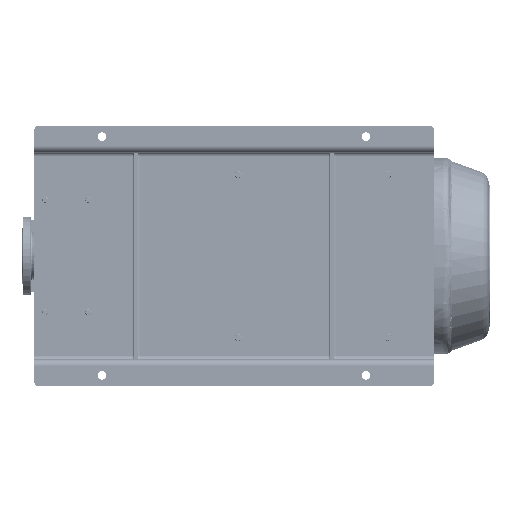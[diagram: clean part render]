
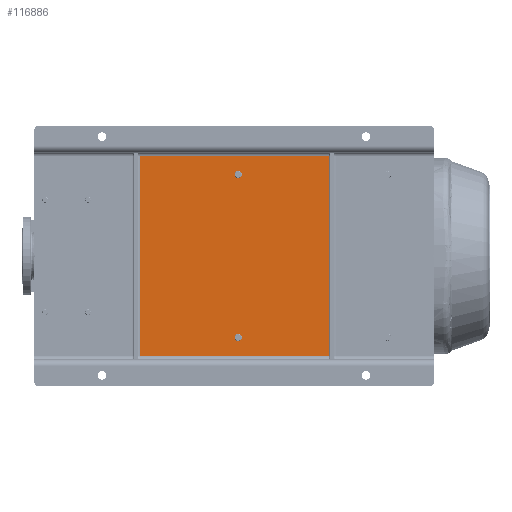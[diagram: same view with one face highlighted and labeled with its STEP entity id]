
A CAD part, front view. The second image highlights one B-rep face of the part: STEP entity #116886.
In plain terms, the highlighted planar face has unit normal (0, -1, 0).
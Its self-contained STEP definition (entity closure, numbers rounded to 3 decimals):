
#2037 = ORIENTED_EDGE ( 'NONE', *, *, #27242, .T. ) ;
#3615 = CARTESIAN_POINT ( 'NONE',  ( 75., 90., -825. ) ) ;
#7624 = CARTESIAN_POINT ( 'NONE',  ( 645., 90., -825. ) ) ;
#9615 = EDGE_CURVE ( 'NONE', #13880, #97309, #29800, .T. ) ;
#10015 = ORIENTED_EDGE ( 'NONE', *, *, #143969, .T. ) ;
#12257 = VERTEX_POINT ( 'NONE', #155364 ) ;
#12953 = CARTESIAN_POINT ( 'NONE',  ( 75., 90., -295. ) ) ;
#13880 = VERTEX_POINT ( 'NONE', #32224 ) ;
#22217 = CARTESIAN_POINT ( 'NONE',  ( 593.5, 90., -571.5 ) ) ;
#22355 = LINE ( 'NONE', #97170, #43340 ) ;
#27242 = EDGE_CURVE ( 'NONE', #122941, #12257, #22355, .T. ) ;
#28048 = CARTESIAN_POINT ( 'NONE',  ( 136.5, 90., -571.5 ) ) ;
#29800 = CIRCLE ( 'NONE', #91479, 10. ) ;
#31121 = DIRECTION ( 'NONE',  ( 0., 1., 0. ) ) ;
#32224 = CARTESIAN_POINT ( 'NONE',  ( 136.5, 90., -581.5 ) ) ;
#33650 = AXIS2_PLACEMENT_3D ( 'NONE', #63129, #135675, #61570 ) ;
#35898 = LINE ( 'NONE', #93867, #43806 ) ;
#38228 = PLANE ( 'NONE',  #52613 ) ;
#39036 = CARTESIAN_POINT ( 'NONE',  ( 75., 90., -1120. ) ) ;
#39297 = CARTESIAN_POINT ( 'NONE',  ( 85., 90., -825. ) ) ;
#43340 = VECTOR ( 'NONE', #143134, 1000. ) ;
#43806 = VECTOR ( 'NONE', #144602, 1000. ) ;
#46887 = EDGE_CURVE ( 'NONE', #12257, #77145, #73288, .T. ) ;
#47542 = DIRECTION ( 'NONE',  ( -1., 0., 0. ) ) ;
#48772 = CARTESIAN_POINT ( 'NONE',  ( 85., 90., -295. ) ) ;
#50544 = CIRCLE ( 'NONE', #117478, 10. ) ;
#51068 = FACE_OUTER_BOUND ( 'NONE', #61330, .T. ) ;
#52613 = AXIS2_PLACEMENT_3D ( 'NONE', #39036, #61579, #87321 ) ;
#56549 = CARTESIAN_POINT ( 'NONE',  ( 593.5, 90., -571.5 ) ) ;
#60520 = ORIENTED_EDGE ( 'NONE', *, *, #61336, .T. ) ;
#61330 = EDGE_LOOP ( 'NONE', ( #60520, #158548, #2037, #130493 ) ) ;
#61336 = EDGE_CURVE ( 'NONE', #77145, #62900, #35898, .T. ) ;
#61570 = DIRECTION ( 'NONE',  ( 0., 0., -1. ) ) ;
#61579 = DIRECTION ( 'NONE',  ( 0., -1., 0. ) ) ;
#62827 = CARTESIAN_POINT ( 'NONE',  ( 593.5, 90., -581.5 ) ) ;
#62900 = VERTEX_POINT ( 'NONE', #39297 ) ;
#63129 = CARTESIAN_POINT ( 'NONE',  ( 136.5, 90., -571.5 ) ) ;
#64227 = DIRECTION ( 'NONE',  ( 0., 1., 0. ) ) ;
#66062 = EDGE_CURVE ( 'NONE', #97309, #13880, #79937, .T. ) ;
#68816 = VECTOR ( 'NONE', #74439, 1000. ) ;
#69674 = DIRECTION ( 'NONE',  ( 0., 0., 1. ) ) ;
#73288 = LINE ( 'NONE', #12953, #134960 ) ;
#74439 = DIRECTION ( 'NONE',  ( 1., 0., 0. ) ) ;
#75521 = DIRECTION ( 'NONE',  ( 0., 0., -1. ) ) ;
#76801 = ORIENTED_EDGE ( 'NONE', *, *, #135096, .T. ) ;
#76811 = LINE ( 'NONE', #3615, #68816 ) ;
#77145 = VERTEX_POINT ( 'NONE', #48772 ) ;
#79937 = CIRCLE ( 'NONE', #33650, 10. ) ;
#83879 = AXIS2_PLACEMENT_3D ( 'NONE', #22217, #31121, #69674 ) ;
#87321 = DIRECTION ( 'NONE',  ( 0., 0., -1. ) ) ;
#91479 = AXIS2_PLACEMENT_3D ( 'NONE', #28048, #64227, #75521 ) ;
#93867 = CARTESIAN_POINT ( 'NONE',  ( 85., 90., -830. ) ) ;
#95179 = DIRECTION ( 'NONE',  ( 0., 1., 0. ) ) ;
#97170 = CARTESIAN_POINT ( 'NONE',  ( 645., 90., -290. ) ) ;
#97309 = VERTEX_POINT ( 'NONE', #132014 ) ;
#105487 = EDGE_LOOP ( 'NONE', ( #134869, #147359 ) ) ;
#106726 = FACE_BOUND ( 'NONE', #115950, .T. ) ;
#109707 = EDGE_CURVE ( 'NONE', #62900, #122941, #76811, .T. ) ;
#115950 = EDGE_LOOP ( 'NONE', ( #76801, #10015 ) ) ;
#116886 = ADVANCED_FACE ( 'NONE', ( #106726, #134126, #51068 ), #38228, .T. ) ;
#117478 = AXIS2_PLACEMENT_3D ( 'NONE', #56549, #95179, #131470 ) ;
#122941 = VERTEX_POINT ( 'NONE', #7624 ) ;
#125706 = VERTEX_POINT ( 'NONE', #130454 ) ;
#130454 = CARTESIAN_POINT ( 'NONE',  ( 593.5, 90., -561.5 ) ) ;
#130493 = ORIENTED_EDGE ( 'NONE', *, *, #46887, .T. ) ;
#131470 = DIRECTION ( 'NONE',  ( 0., 0., 1. ) ) ;
#132014 = CARTESIAN_POINT ( 'NONE',  ( 136.5, 90., -561.5 ) ) ;
#134083 = VERTEX_POINT ( 'NONE', #62827 ) ;
#134126 = FACE_BOUND ( 'NONE', #105487, .T. ) ;
#134869 = ORIENTED_EDGE ( 'NONE', *, *, #66062, .T. ) ;
#134960 = VECTOR ( 'NONE', #47542, 1000. ) ;
#135096 = EDGE_CURVE ( 'NONE', #125706, #134083, #50544, .T. ) ;
#135675 = DIRECTION ( 'NONE',  ( 0., 1., 0. ) ) ;
#143134 = DIRECTION ( 'NONE',  ( 0., 0., 1. ) ) ;
#143969 = EDGE_CURVE ( 'NONE', #134083, #125706, #158298, .T. ) ;
#144602 = DIRECTION ( 'NONE',  ( 0., 0., -1. ) ) ;
#147359 = ORIENTED_EDGE ( 'NONE', *, *, #9615, .T. ) ;
#155364 = CARTESIAN_POINT ( 'NONE',  ( 645., 90., -295. ) ) ;
#158298 = CIRCLE ( 'NONE', #83879, 10. ) ;
#158548 = ORIENTED_EDGE ( 'NONE', *, *, #109707, .T. ) ;
